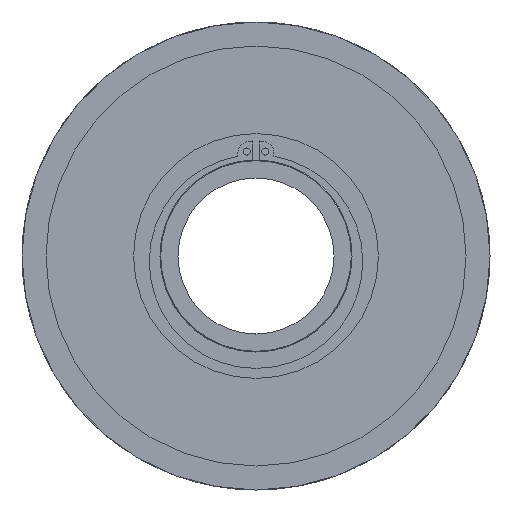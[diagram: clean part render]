
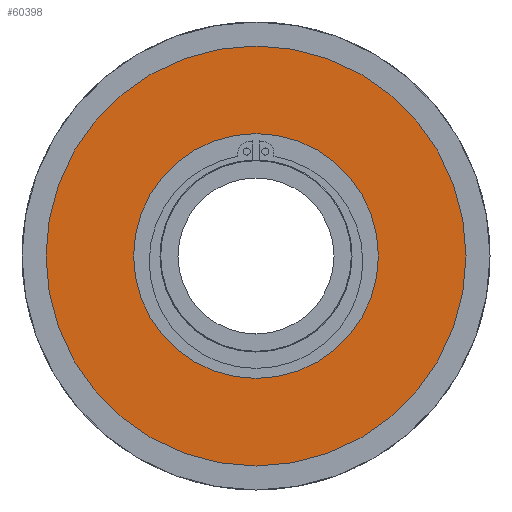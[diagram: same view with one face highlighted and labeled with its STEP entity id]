
A CAD part, left-side view. The second image highlights one B-rep face of the part: STEP entity #60398.
In plain terms, the highlighted planar face has unit normal (-1, 0, 0).
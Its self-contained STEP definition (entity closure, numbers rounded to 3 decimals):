
#585=FACE_BOUND('',#6310,.T.);
#1109=PLANE('',#66841);
#3152=FACE_OUTER_BOUND('',#6309,.T.);
#6309=EDGE_LOOP('',(#46423));
#6310=EDGE_LOOP('',(#46424));
#10974=CIRCLE('',#66816,87.5);
#10985=CIRCLE('',#66840,51.);
#24002=VERTEX_POINT('',#102791);
#24010=VERTEX_POINT('',#102830);
#31937=EDGE_CURVE('',#24002,#24002,#10974,.T.);
#31956=EDGE_CURVE('',#24010,#24010,#10985,.T.);
#46423=ORIENTED_EDGE('',*,*,#31937,.F.);
#46424=ORIENTED_EDGE('',*,*,#31956,.T.);
#60398=ADVANCED_FACE('',(#3152,#585),#1109,.T.);
#66816=AXIS2_PLACEMENT_3D('',#102792,#82656,#82657);
#66840=AXIS2_PLACEMENT_3D('',#102832,#82712,#82713);
#66841=AXIS2_PLACEMENT_3D('',#102833,#82714,#82715);
#82656=DIRECTION('center_axis',(1.,0.,0.));
#82657=DIRECTION('ref_axis',(0.,0.,-1.));
#82712=DIRECTION('center_axis',(1.,0.,0.));
#82713=DIRECTION('ref_axis',(0.,0.,-1.));
#82714=DIRECTION('center_axis',(-1.,0.,0.));
#82715=DIRECTION('ref_axis',(0.,0.,1.));
#102791=CARTESIAN_POINT('',(-21.,87.5,0.));
#102792=CARTESIAN_POINT('Origin',(-21.,0.,0.));
#102830=CARTESIAN_POINT('',(-21.,-51.,0.));
#102832=CARTESIAN_POINT('Origin',(-21.,0.,0.));
#102833=CARTESIAN_POINT('Origin',(-21.,87.5,0.));
